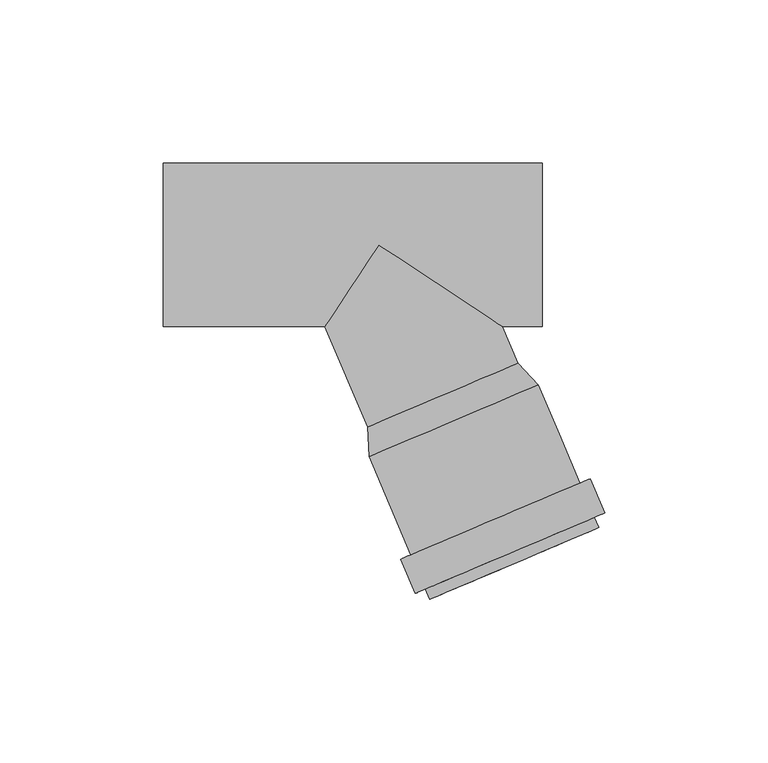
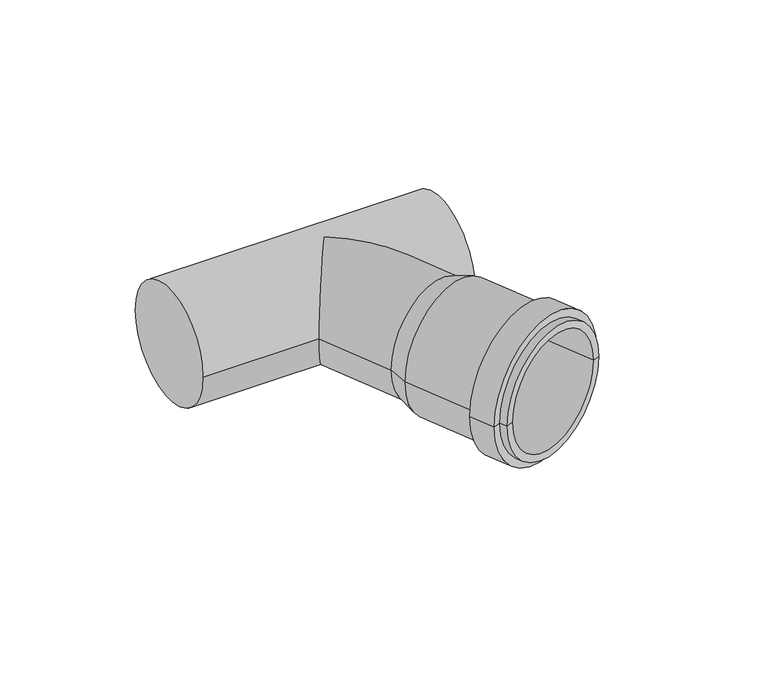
"""IFC4 building model written with IfcOpenShell, lengths in millimetres: pipe fitting geometry, pf_HTEA : pf_HTEA."""

from ifc_helpers import new_model, si_unit, frame, origin, place, context, project, spatial, polyline, circle_curve, ellipse_curve, source, transform, mapped, element, save
from ifc_brep_helpers import plane_surface, cylinder_surface, revolved_surface, advanced_brep


def pipe_fitting_35a15b8a(model_context):
    return source(origin(), model_context, "Body", "AdvancedBrep", [
        advanced_brep(
        [(-3.4760649, -55.7935209, 0.0), (42.5491778, -36.2569645, 0.0), (48.7239574, -42.8699892, 0.0), (-3.0084154, -64.8290786, 0.0), (19.5365564, -46.0252427, 0.0), (15.5513132, -108.5530592, 0.0), (67.283686, -86.5939698, 0.0), (64.430121, -87.8052363, 0.0), (18.4048783, -107.3417927, 0.0), (14.2228274, -105.4233427, 0.0), (65.9552002, -83.4642533, 0.0), (11.0931109, -106.7518285, 0.0), (69.0849167, -82.1357674, 0.0), (6.638776, -96.2580732, 0.0), (64.6305818, -71.6420121, 0.0), (9.7684925, -94.9295873, 0.0), (61.5008653, -72.9704979, 0.0), (-0.1548503, -63.6178121, 0.0), (45.8703924, -44.0812557, 0.0), (22.857771, -53.8495339, 0.0)],
        [
            (0, 1, circle_curve(frame((19.5365564, -46.0252427, 0.0), z_axis=(0.39073112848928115, -0.9205048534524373, 0.0), x_axis=(0.9205048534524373, 0.39073112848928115, 0.0)), 25.0)),
            (1, 2),
            (2, 3, circle_curve(frame((22.857771, -53.8495339, 0.0), z_axis=(-0.39073112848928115, 0.9205048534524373, 0.0), x_axis=(0.9205048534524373, 0.39073112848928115, 0.0)), 28.1)),
            (3, 0),
            (1, 0, circle_curve(frame((19.5365564, -46.0252427, 0.0), z_axis=(0.39073112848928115, -0.9205048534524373, 0.0), x_axis=(0.9205048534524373, 0.39073112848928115, 0.0)), 25.0)),
            (3, 2, circle_curve(frame((22.857771, -53.8495339, 0.0), z_axis=(-0.39073112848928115, 0.9205048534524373, 0.0), x_axis=(0.9205048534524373, 0.39073112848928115, 0.0)), 28.1)),
            (4, 1),
            (0, 4),
            (5, 6, circle_curve(frame((41.4174996, -97.5735145, 0.0), z_axis=(0.39073112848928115, -0.9205048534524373, 0.0), x_axis=(0.9205048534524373, 0.39073112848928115, 0.0)), 28.1)),
            (6, 7),
            (7, 8, circle_curve(frame((41.4174996, -97.5735145, 0.0), z_axis=(-0.39073112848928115, 0.9205048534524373, 0.0), x_axis=(0.9205048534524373, 0.39073112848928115, 0.0)), 25.0)),
            (8, 5),
            (6, 5, circle_curve(frame((41.4174996, -97.5735145, 0.0), z_axis=(0.39073112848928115, -0.9205048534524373, 0.0), x_axis=(0.9205048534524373, 0.39073112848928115, 0.0)), 28.1)),
            (8, 7, circle_curve(frame((41.4174996, -97.5735145, 0.0), z_axis=(-0.39073112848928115, 0.9205048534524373, 0.0), x_axis=(0.9205048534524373, 0.39073112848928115, 0.0)), 25.0)),
            (9, 10, circle_curve(frame((40.0890138, -94.443798, 0.0), z_axis=(0.39073112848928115, -0.9205048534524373, 0.0), x_axis=(0.9205048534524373, 0.39073112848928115, 0.0)), 28.1)),
            (10, 6),
            (5, 9),
            (10, 9, circle_curve(frame((40.0890138, -94.443798, 0.0), z_axis=(0.39073112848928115, -0.9205048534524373, 0.0), x_axis=(0.9205048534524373, 0.39073112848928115, 0.0)), 28.1)),
            (11, 12, circle_curve(frame((40.0890138, -94.443798, 0.0), z_axis=(0.39073112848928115, -0.9205048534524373, 0.0), x_axis=(0.9205048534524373, 0.39073112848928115, 0.0)), 31.5)),
            (12, 10),
            (9, 11),
            (12, 11, circle_curve(frame((40.0890138, -94.443798, 0.0), z_axis=(0.39073112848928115, -0.9205048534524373, 0.0), x_axis=(0.9205048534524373, 0.39073112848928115, 0.0)), 31.5)),
            (13, 14, circle_curve(frame((35.6346789, -83.9500426, 0.0), z_axis=(0.39073112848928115, -0.9205048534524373, 0.0), x_axis=(0.9205048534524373, 0.39073112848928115, 0.0)), 31.5)),
            (14, 12),
            (11, 13),
            (14, 13, circle_curve(frame((35.6346789, -83.9500426, 0.0), z_axis=(0.39073112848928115, -0.9205048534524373, 0.0), x_axis=(0.9205048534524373, 0.39073112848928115, 0.0)), 31.5)),
            (15, 16, circle_curve(frame((35.6346789, -83.9500426, 0.0), z_axis=(0.39073112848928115, -0.9205048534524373, 0.0), x_axis=(0.9205048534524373, 0.39073112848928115, 0.0)), 28.1)),
            (16, 14),
            (13, 15),
            (16, 15, circle_curve(frame((35.6346789, -83.9500426, 0.0), z_axis=(0.39073112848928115, -0.9205048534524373, 0.0), x_axis=(0.9205048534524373, 0.39073112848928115, 0.0)), 28.1)),
            (2, 16),
            (15, 3),
            (17, 18, circle_curve(frame((22.857771, -53.8495339, 0.0), z_axis=(0.39073112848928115, -0.9205048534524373, 0.0), x_axis=(0.9205048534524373, 0.39073112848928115, 0.0)), 25.0)),
            (18, 19),
            (19, 17),
            (18, 17, circle_curve(frame((22.857771, -53.8495339, 0.0), z_axis=(0.39073112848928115, -0.9205048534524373, 0.0), x_axis=(0.9205048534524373, 0.39073112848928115, 0.0)), 25.0)),
            (7, 18),
            (17, 8),
        ],
        [
            revolved_surface(polyline([(48.7239574, -42.8699892, 0.0), (42.5491778, -36.2569645, 0.0)]), (19.5365564, -46.0252427, 0.0), (-0.39073112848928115, 0.9205048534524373, 0.0)),
            plane_surface(frame((19.5365564, -46.0252427, 0.0), z_axis=(-0.39073112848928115, 0.9205048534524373, 0.0), x_axis=(0.9205048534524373, 0.39073112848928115, 0.0))),
            plane_surface(frame((41.4174996, -97.5735145, 0.0), z_axis=(0.39073112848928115, -0.9205048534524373, 0.0), x_axis=(0.9205048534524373, 0.39073112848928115, 0.0))),
            cylinder_surface(frame((19.5365564, -46.0252427, 0.0), z_axis=(-0.39073112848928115, 0.9205048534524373, 0.0), x_axis=(0.9205048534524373, 0.39073112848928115, 0.0)), 28.1),
            plane_surface(frame((40.0890138, -94.443798, 0.0), z_axis=(0.39073112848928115, -0.9205048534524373, 0.0), x_axis=(0.9205048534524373, 0.39073112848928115, 0.0))),
            cylinder_surface(frame((19.5365564, -46.0252427, 0.0), z_axis=(-0.39073112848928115, 0.9205048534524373, 0.0), x_axis=(0.9205048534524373, 0.39073112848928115, 0.0)), 31.5),
            plane_surface(frame((35.6346789, -83.9500426, 0.0), z_axis=(-0.39073112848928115, 0.9205048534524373, 0.0), x_axis=(0.9205048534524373, 0.39073112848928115, 0.0))),
            plane_surface(frame((22.857771, -53.8495339, 0.0), z_axis=(0.39073112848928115, -0.9205048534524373, 0.0), x_axis=(0.9205048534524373, 0.39073112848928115, 0.0))),
            revolved_surface(polyline([(45.87039231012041, -44.08125569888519, 0.0), (64.43012094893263, -87.80523632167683, 0.0)]), (19.5365564, -46.0252427, 0.0), (-0.39073112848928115, 0.9205048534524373, 0.0)),
        ],
        [
            (0, [[1, 2, 3, 4]]),
            (0, [[5, -4, 6, -2]]),
            (1, [[7, -1, 8]]),
            (1, [[-8, -5, -7]]),
            (2, [[9, 10, 11, 12]]),
            (2, [[13, -12, 14, -10]]),
            (3, [[15, 16, -9, 17]]),
            (3, [[18, -17, -13, -16]]),
            (4, [[19, 20, -15, 21]]),
            (4, [[22, -21, -18, -20]]),
            (5, [[23, 24, -19, 25]]),
            (5, [[26, -25, -22, -24]]),
            (6, [[27, 28, -23, 29]]),
            (6, [[30, -29, -26, -28]]),
            (3, [[-3, 31, -27, 32]]),
            (3, [[-6, -32, -30, -31]]),
            (7, [[33, 34, 35]]),
            (7, [[36, -35, -34]]),
            (8, [[-11, 37, -33, 38]]),
            (8, [[-14, -38, -36, -37]]),
        ],
    ),
        advanced_brep(
        [(-3.4760649, -55.7935209, 0.0), (42.5491778, -36.2569645, 0.0), (-66.0, -25.0, 0.0), (-66.0, 25.0, 0.0), (50.0, -25.0, 0.0), (50.0, 25.0, 0.0), (-16.547139, -25.0, 0.0), (0.0, 0.0, 25.0), (37.7708798, -25.0, 0.0), (0.0, 0.0, -25.0)],
        [
            (0, 1, circle_curve(frame((19.5365564, -46.0252427, 0.0), z_axis=(0.390731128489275, -0.9205048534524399, 0.0), x_axis=(0.9205048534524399, 0.390731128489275, 0.0)), 25.0)),
            (1, 0, circle_curve(frame((19.5365564, -46.0252427, 0.0), z_axis=(0.390731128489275, -0.9205048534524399, 0.0), x_axis=(0.9205048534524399, 0.390731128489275, 0.0)), 25.0)),
            (2, 3, circle_curve(frame((-66.0, 0.0, 0.0), z_axis=(-1.0, 0.0, 0.0), x_axis=(0.0, 1.0, 0.0)), 25.0)),
            (3, 2, circle_curve(frame((-66.0, 0.0, 0.0), z_axis=(-1.0, 0.0, 0.0), x_axis=(0.0, 1.0, 0.0)), 25.0)),
            (4, 5, circle_curve(frame((50.0, 0.0, 0.0), z_axis=(1.0, 0.0, 0.0), x_axis=(0.0, 1.0, 0.0)), 25.0)),
            (5, 4, circle_curve(frame((50.0, 0.0, 0.0), z_axis=(1.0, 0.0, 0.0), x_axis=(0.0, 1.0, 0.0)), 25.0)),
            (2, 6),
            (6, 7, ellipse_curve(frame((0.0, 0.0, 0.0), z_axis=(-0.8338858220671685, 0.5519369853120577, 0.0), x_axis=(-0.5519369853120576, -0.8338858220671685, 0.0)), 29.9801236, 25.0)),
            (7, 8, ellipse_curve(frame((0.0, 0.0, 0.0), z_axis=(0.5519369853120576, 0.8338858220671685, 0.0), x_axis=(-0.8338858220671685, 0.5519369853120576, 0.0)), 45.2950258, 25.0)),
            (8, 4),
            (5, 3),
            (8, 9, ellipse_curve(frame((0.0, 0.0, 0.0), z_axis=(0.5519369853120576, 0.8338858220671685, 0.0), x_axis=(-0.8338858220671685, 0.5519369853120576, 0.0)), 45.2950258, 25.0)),
            (9, 6, ellipse_curve(frame((0.0, 0.0, 0.0), z_axis=(-0.8338858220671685, 0.5519369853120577, 0.0), x_axis=(-0.5519369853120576, -0.8338858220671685, 0.0)), 29.9801236, 25.0)),
            (1, 8),
            (6, 0),
        ],
        [
            plane_surface(frame((19.5365564, -46.0252427, 0.0), z_axis=(0.3907311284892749, -0.9205048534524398, 0.0), x_axis=(0.0, 0.0, 1.0))),
            plane_surface(frame((-66.0, 0.0, 0.0), z_axis=(-1.0, 0.0, 0.0), x_axis=(0.0, 0.0, 1.0))),
            plane_surface(frame((50.0, 0.0, 0.0), z_axis=(1.0, 0.0, 0.0), x_axis=(0.0, 0.0, 1.0))),
            cylinder_surface(frame((-66.0, 0.0, 0.0), z_axis=(-1.0, 0.0, 0.0), x_axis=(0.0, 1.0, 0.0)), 25.0),
            cylinder_surface(frame((0.0, 0.0, 0.0), z_axis=(-0.390731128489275, 0.9205048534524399, 0.0), x_axis=(0.9205048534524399, 0.390731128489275, 0.0)), 25.0),
        ],
        [
            (0, [[1, 2]]),
            (1, [[3, 4]]),
            (2, [[5, 6]]),
            (3, [[-3, 7, 8, 9, 10, -6, 11]]),
            (3, [[-4, -11, -5, -10, 12, 13, -7]]),
            (4, [[-2, 14, -9, -8, 15]]),
            (4, [[-1, -15, -13, -12, -14]]),
        ],
    ),
    ])


if __name__ == "__main__":
    model = new_model("IFC4")
    model_context = context("Model", 3, world=origin())
    ifc_project = project(units=[si_unit("LENGTHUNIT", "METRE", prefix="MILLI")], contexts=[model_context])
    site = spatial("IfcSite", under=ifc_project)
    building = spatial("IfcBuilding", under=site)
    placement = place(None, origin())
    pipe_fitting_shape = pipe_fitting_35a15b8a(model_context)
    element("IfcPipeFitting", 1, ObjectType="pf_HTEA : pf_HTEA", at=placement, inside=building, context=model_context, shape_type="MappedRepresentation", body=[
        mapped(pipe_fitting_shape, transform((0.0, 0.0, 0.0), x_axis=(1.0, 0.0, 0.0), y_axis=(0.0, 1.0, 0.0), z_axis=(0.0, 0.0, 1.0))),
    ])
    save(model, "model.ifc")
